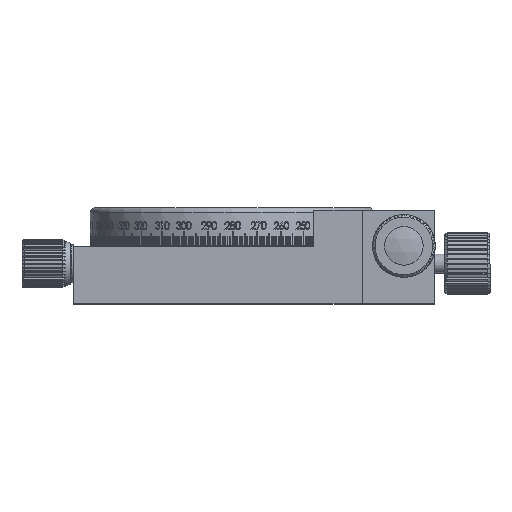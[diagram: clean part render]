
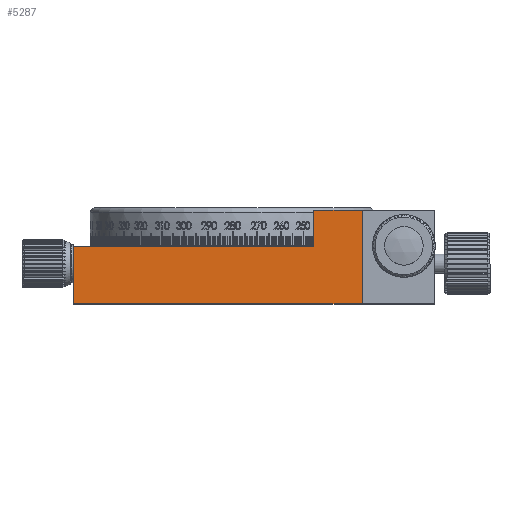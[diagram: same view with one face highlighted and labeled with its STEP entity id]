
A CAD part, top view. The second image highlights one B-rep face of the part: STEP entity #5287.
In plain terms, the highlighted planar face has unit normal (0, 0, 1).
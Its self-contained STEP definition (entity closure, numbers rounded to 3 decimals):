
#4040 = EDGE_CURVE ( 'NONE', #212360, #202042, #138837, .T. ) ;
#4323 = EDGE_CURVE ( 'NONE', #213357, #214159, #162093, .T. ) ;
#4372 = EDGE_CURVE ( 'NONE', #212680, #213996, #163364, .T. ) ;
#4741 = EDGE_CURVE ( 'NONE', #213679, #202046, #203967, .T. ) ;
#5287 = ADVANCED_FACE ( 'NONE', ( #164424 ), #164379, .F. ) ;
#5490 = EDGE_CURVE ( 'NONE', #213357, #212389, #125678, .T. ) ;
#6808 = EDGE_LOOP ( 'NONE', ( #109147, #108899, #109164, #109156, #107241, #105835, #106659, #108475, #107916, #107868 ) ) ;
#26178 = CARTESIAN_POINT ( 'NONE',  ( 5.189, 6.94, 33. ) ) ;
#26184 = CARTESIAN_POINT ( 'NONE',  ( 5.189, -12.56, 33. ) ) ;
#44360 = LINE ( 'NONE', #44363, #120873 ) ;
#44363 = CARTESIAN_POINT ( 'NONE',  ( -54.811, -0.56, 33. ) ) ;
#44365 = DIRECTION ( 'NONE',  ( 1., 0., 0. ) ) ;
#46345 = LINE ( 'NONE', #46350, #173009 ) ;
#46350 = CARTESIAN_POINT ( 'NONE',  ( 5.189, -12.56, 33. ) ) ;
#46355 = DIRECTION ( 'NONE',  ( 0., 1., 0. ) ) ;
#53888 = VECTOR ( 'NONE', #56910, 1000. ) ;
#56819 = LINE ( 'NONE', #56820, #118081 ) ;
#56820 = CARTESIAN_POINT ( 'NONE',  ( -54.811, -0.56, 33. ) ) ;
#56821 = DIRECTION ( 'NONE',  ( 0., -1., 0. ) ) ;
#56908 = LINE ( 'NONE', #56909, #53888 ) ;
#56909 = CARTESIAN_POINT ( 'NONE',  ( -4.811, 6.94, 33. ) ) ;
#56910 = DIRECTION ( 'NONE',  ( 0., -1., 0. ) ) ;
#56980 = LINE ( 'NONE', #56981, #173934 ) ;
#56981 = CARTESIAN_POINT ( 'NONE',  ( -54.811, -0.57, 33. ) ) ;
#56982 = DIRECTION ( 'NONE',  ( 1., 0., 0. ) ) ;
#83398 = VECTOR ( 'NONE', #138835, 1000. ) ;
#88266 = AXIS2_PLACEMENT_3D ( 'NONE', #164646, #164390, #164977 ) ;
#105835 = ORIENTED_EDGE ( 'NONE', *, *, #174018, .T. ) ;
#106659 = ORIENTED_EDGE ( 'NONE', *, *, #4040, .F. ) ;
#107241 = ORIENTED_EDGE ( 'NONE', *, *, #4741, .T. ) ;
#107868 = ORIENTED_EDGE ( 'NONE', *, *, #4323, .T. ) ;
#107916 = ORIENTED_EDGE ( 'NONE', *, *, #5490, .F. ) ;
#108475 = ORIENTED_EDGE ( 'NONE', *, *, #174642, .T. ) ;
#108899 = ORIENTED_EDGE ( 'NONE', *, *, #4372, .T. ) ;
#109147 = ORIENTED_EDGE ( 'NONE', *, *, #174687, .F. ) ;
#109156 = ORIENTED_EDGE ( 'NONE', *, *, #174595, .T. ) ;
#109164 = ORIENTED_EDGE ( 'NONE', *, *, #173835, .F. ) ;
#116237 = VECTOR ( 'NONE', #203972, 1000. ) ;
#118081 = VECTOR ( 'NONE', #56821, 1000. ) ;
#120873 = VECTOR ( 'NONE', #44365, 1000. ) ;
#122411 = CARTESIAN_POINT ( 'NONE',  ( -4.811, 6.94, 33. ) ) ;
#122472 = CARTESIAN_POINT ( 'NONE',  ( -4.811, -0.56, 33. ) ) ;
#123510 = CARTESIAN_POINT ( 'NONE',  ( -20.861, -0.57, 33. ) ) ;
#125396 = CARTESIAN_POINT ( 'NONE',  ( -54.811, -0.56, 33. ) ) ;
#125530 = DIRECTION ( 'NONE',  ( 1., 0., 0. ) ) ;
#125537 = CARTESIAN_POINT ( 'NONE',  ( -54.811, -0.56, 33. ) ) ;
#125678 = LINE ( 'NONE', #125537, #180645 ) ;
#130516 = VECTOR ( 'NONE', #162708, 1000. ) ;
#130906 = VECTOR ( 'NONE', #162101, 1000. ) ;
#132859 = CARTESIAN_POINT ( 'NONE',  ( -20.761, -0.56, 33. ) ) ;
#138835 = DIRECTION ( 'NONE',  ( 1., 0., 0. ) ) ;
#138836 = CARTESIAN_POINT ( 'NONE',  ( 20.189, 6.94, 33. ) ) ;
#138837 = LINE ( 'NONE', #138836, #83398 ) ;
#141860 = CARTESIAN_POINT ( 'NONE',  ( -54.811, -12.56, 33. ) ) ;
#143346 = CARTESIAN_POINT ( 'NONE',  ( -20.861, -0.56, 33. ) ) ;
#144130 = CARTESIAN_POINT ( 'NONE',  ( -20.761, -0.57, 33. ) ) ;
#162093 = LINE ( 'NONE', #162097, #130906 ) ;
#162097 = CARTESIAN_POINT ( 'NONE',  ( -20.761, -0.56, 33. ) ) ;
#162101 = DIRECTION ( 'NONE',  ( 0., -1., 0. ) ) ;
#162705 = CARTESIAN_POINT ( 'NONE',  ( -20.861, -0.56, 33. ) ) ;
#162708 = DIRECTION ( 'NONE',  ( 0., 1., 0. ) ) ;
#163364 = LINE ( 'NONE', #162705, #130516 ) ;
#164379 = PLANE ( 'NONE',  #88266 ) ;
#164390 = DIRECTION ( 'NONE',  ( 0., 0., -1. ) ) ;
#164424 = FACE_OUTER_BOUND ( 'NONE', #6808, .T. ) ;
#164646 = CARTESIAN_POINT ( 'NONE',  ( -54.811, -0.56, 33. ) ) ;
#164977 = DIRECTION ( 'NONE',  ( -1., 0., 0. ) ) ;
#173009 = VECTOR ( 'NONE', #46355, 1000. ) ;
#173835 = EDGE_CURVE ( 'NONE', #212828, #213996, #44360, .T. ) ;
#173934 = VECTOR ( 'NONE', #56982, 1000. ) ;
#174018 = EDGE_CURVE ( 'NONE', #202046, #202042, #46345, .T. ) ;
#174595 = EDGE_CURVE ( 'NONE', #212828, #213679, #56819, .T. ) ;
#174642 = EDGE_CURVE ( 'NONE', #212360, #212389, #56908, .T. ) ;
#174687 = EDGE_CURVE ( 'NONE', #212680, #214159, #56980, .T. ) ;
#180645 = VECTOR ( 'NONE', #125530, 1000. ) ;
#202042 = VERTEX_POINT ( 'NONE', #26178 ) ;
#202046 = VERTEX_POINT ( 'NONE', #26184 ) ;
#203967 = LINE ( 'NONE', #203970, #116237 ) ;
#203970 = CARTESIAN_POINT ( 'NONE',  ( -54.811, -12.56, 33. ) ) ;
#203972 = DIRECTION ( 'NONE',  ( 1., 0., 0. ) ) ;
#212360 = VERTEX_POINT ( 'NONE', #122411 ) ;
#212389 = VERTEX_POINT ( 'NONE', #122472 ) ;
#212680 = VERTEX_POINT ( 'NONE', #123510 ) ;
#212828 = VERTEX_POINT ( 'NONE', #125396 ) ;
#213357 = VERTEX_POINT ( 'NONE', #132859 ) ;
#213679 = VERTEX_POINT ( 'NONE', #141860 ) ;
#213996 = VERTEX_POINT ( 'NONE', #143346 ) ;
#214159 = VERTEX_POINT ( 'NONE', #144130 ) ;
